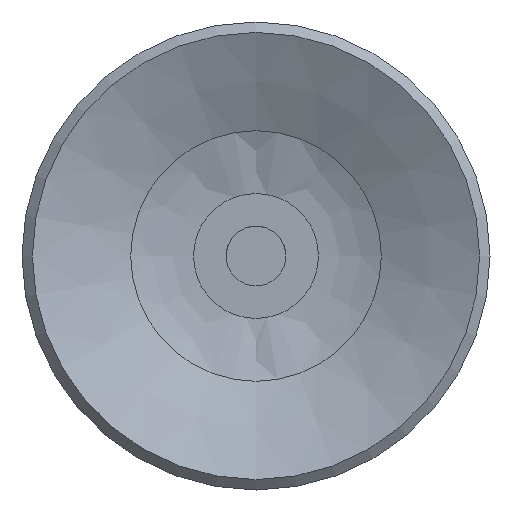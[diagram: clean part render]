
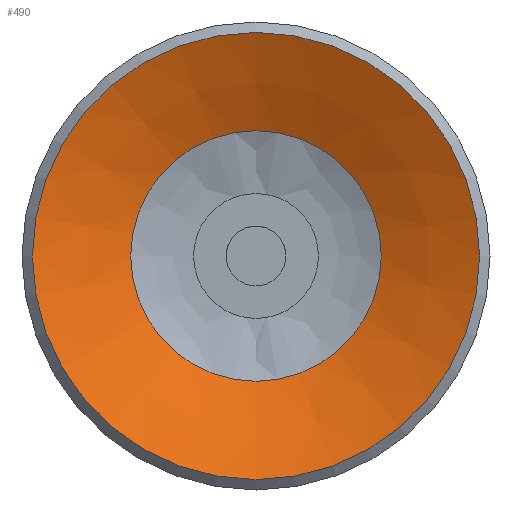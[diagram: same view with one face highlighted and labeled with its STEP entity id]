
A CAD part, front view. The second image highlights one B-rep face of the part: STEP entity #490.
In plain terms, the highlighted conical face has half-angle 65.056 degrees and reference radius 3.2 mm.
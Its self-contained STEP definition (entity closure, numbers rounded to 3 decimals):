
#490=ADVANCED_FACE('',(#734,#735),#736,.F.);
#734=FACE_BOUND('',#1003,.T.);
#735=FACE_OUTER_BOUND('',#1004,.T.);
#736=CONICAL_SURFACE('',#1005,3.2,1.135);
#1003=EDGE_LOOP('',(#1683));
#1004=EDGE_LOOP('',(#1684));
#1005=AXIS2_PLACEMENT_3D('',#1685,#1686,#1687);
#1683=ORIENTED_EDGE('',*,*,#1913,.T.);
#1684=ORIENTED_EDGE('',*,*,#1914,.T.);
#1685=CARTESIAN_POINT('',(0.0,7.896,0.0));
#1686=DIRECTION('',(-0.0,-1.0,0.));
#1687=DIRECTION('',(0.0,0.,-1.0));
#1913=EDGE_CURVE('',#2208,#2208,#2209,.T.);
#1914=EDGE_CURVE('',#2210,#2210,#2211,.T.);
#2208=VERTEX_POINT('',#2900);
#2209=CIRCLE('',#2901,4.203);
#2210=VERTEX_POINT('',#2902);
#2211=CIRCLE('',#2903,7.5);
#2900=CARTESIAN_POINT('',(0.0,7.43,-4.203));
#2901=AXIS2_PLACEMENT_3D('',#3180,#3181,#3182);
#2902=CARTESIAN_POINT('',(0.0,5.896,-7.5));
#2903=AXIS2_PLACEMENT_3D('',#3183,#3184,#3185);
#3180=CARTESIAN_POINT('',(0.0,7.43,0.0));
#3181=DIRECTION('',(0.0,1.0,0.));
#3182=DIRECTION('',(0.0,0.,-1.0));
#3183=CARTESIAN_POINT('',(0.0,5.896,0.0));
#3184=DIRECTION('',(0.0,-1.0,0.));
#3185=DIRECTION('',(0.0,0.,-1.0));
